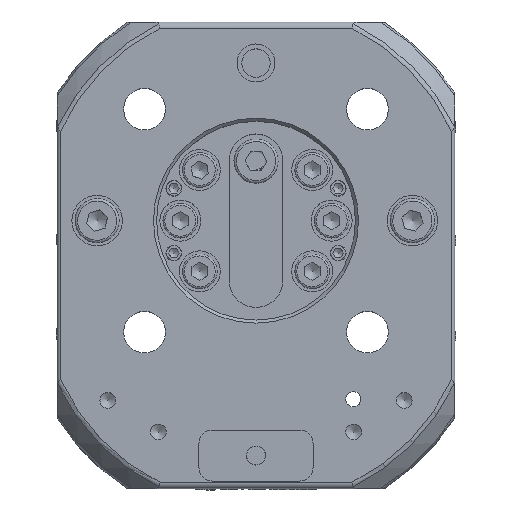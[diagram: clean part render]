
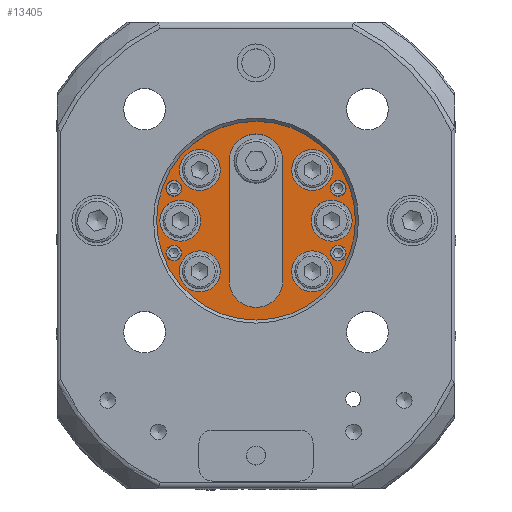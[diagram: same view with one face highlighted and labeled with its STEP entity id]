
A CAD part, top view. The second image highlights one B-rep face of the part: STEP entity #13405.
In plain terms, the highlighted planar face has unit normal (0, 0, 1).
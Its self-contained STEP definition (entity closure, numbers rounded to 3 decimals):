
#826=LINE('',#18719,#1786);
#1051=LINE('',#20453,#2011);
#1786=VECTOR('',#15400,10.);
#2011=VECTOR('',#16271,10.);
#2877=FACE_BOUND('',#4065,.T.);
#2878=FACE_BOUND('',#4066,.T.);
#2879=FACE_BOUND('',#4067,.T.);
#2880=FACE_BOUND('',#4068,.T.);
#2881=FACE_BOUND('',#4069,.T.);
#2882=FACE_BOUND('',#4070,.T.);
#2883=FACE_BOUND('',#4071,.T.);
#2884=FACE_BOUND('',#4072,.T.);
#2885=FACE_BOUND('',#4073,.T.);
#2886=FACE_BOUND('',#4074,.T.);
#2887=FACE_BOUND('',#4075,.T.);
#3264=FACE_OUTER_BOUND('',#4064,.T.);
#4064=EDGE_LOOP('',(#9556));
#4065=EDGE_LOOP('',(#9557));
#4066=EDGE_LOOP('',(#9558));
#4067=EDGE_LOOP('',(#9559));
#4068=EDGE_LOOP('',(#9560));
#4069=EDGE_LOOP('',(#9561));
#4070=EDGE_LOOP('',(#9562));
#4071=EDGE_LOOP('',(#9563));
#4072=EDGE_LOOP('',(#9564));
#4073=EDGE_LOOP('',(#9565));
#4074=EDGE_LOOP('',(#9566));
#4075=EDGE_LOOP('',(#9567,#9568,#9569,#9570));
#4755=CIRCLE('',#14073,4.25);
#4875=CIRCLE('',#14383,15.76);
#4876=CIRCLE('',#14384,1.25);
#4877=CIRCLE('',#14385,1.25);
#4878=CIRCLE('',#14386,1.25);
#4879=CIRCLE('',#14387,1.25);
#4880=CIRCLE('',#14388,3.25);
#4881=CIRCLE('',#14389,3.25);
#4882=CIRCLE('',#14390,3.25);
#4883=CIRCLE('',#14391,3.25);
#4884=CIRCLE('',#14392,3.25);
#4885=CIRCLE('',#14393,3.25);
#4886=CIRCLE('',#14394,4.25);
#5297=VERTEX_POINT('',#18716);
#5298=VERTEX_POINT('',#18718);
#5299=VERTEX_POINT('',#18722);
#5570=VERTEX_POINT('',#20429);
#5571=VERTEX_POINT('',#20431);
#5572=VERTEX_POINT('',#20433);
#5573=VERTEX_POINT('',#20435);
#5574=VERTEX_POINT('',#20437);
#5575=VERTEX_POINT('',#20439);
#5576=VERTEX_POINT('',#20441);
#5577=VERTEX_POINT('',#20443);
#5578=VERTEX_POINT('',#20445);
#5579=VERTEX_POINT('',#20447);
#5580=VERTEX_POINT('',#20449);
#5581=VERTEX_POINT('',#20451);
#6593=EDGE_CURVE('',#5298,#5297,#826,.T.);
#6596=EDGE_CURVE('',#5297,#5299,#4755,.T.);
#7049=EDGE_CURVE('',#5570,#5570,#4875,.T.);
#7050=EDGE_CURVE('',#5571,#5571,#4876,.T.);
#7051=EDGE_CURVE('',#5572,#5572,#4877,.T.);
#7052=EDGE_CURVE('',#5573,#5573,#4878,.T.);
#7053=EDGE_CURVE('',#5574,#5574,#4879,.T.);
#7054=EDGE_CURVE('',#5575,#5575,#4880,.T.);
#7055=EDGE_CURVE('',#5576,#5576,#4881,.T.);
#7056=EDGE_CURVE('',#5577,#5577,#4882,.T.);
#7057=EDGE_CURVE('',#5578,#5578,#4883,.T.);
#7058=EDGE_CURVE('',#5579,#5579,#4884,.T.);
#7059=EDGE_CURVE('',#5580,#5580,#4885,.T.);
#7060=EDGE_CURVE('',#5581,#5298,#4886,.T.);
#7061=EDGE_CURVE('',#5299,#5581,#1051,.T.);
#9556=ORIENTED_EDGE('',*,*,#7049,.F.);
#9557=ORIENTED_EDGE('',*,*,#7050,.T.);
#9558=ORIENTED_EDGE('',*,*,#7051,.T.);
#9559=ORIENTED_EDGE('',*,*,#7052,.T.);
#9560=ORIENTED_EDGE('',*,*,#7053,.T.);
#9561=ORIENTED_EDGE('',*,*,#7054,.T.);
#9562=ORIENTED_EDGE('',*,*,#7055,.T.);
#9563=ORIENTED_EDGE('',*,*,#7056,.T.);
#9564=ORIENTED_EDGE('',*,*,#7057,.T.);
#9565=ORIENTED_EDGE('',*,*,#7058,.T.);
#9566=ORIENTED_EDGE('',*,*,#7059,.T.);
#9567=ORIENTED_EDGE('',*,*,#7060,.T.);
#9568=ORIENTED_EDGE('',*,*,#6593,.T.);
#9569=ORIENTED_EDGE('',*,*,#6596,.T.);
#9570=ORIENTED_EDGE('',*,*,#7061,.T.);
#12197=PLANE('',#14382);
#13405=ADVANCED_FACE('',(#3264,#2877,#2878,#2879,#2880,#2881,#2882,#2883,
#2884,#2885,#2886,#2887),#12197,.T.);
#14073=AXIS2_PLACEMENT_3D('',#18724,#15405,#15406);
#14382=AXIS2_PLACEMENT_3D('',#20428,#16245,#16246);
#14383=AXIS2_PLACEMENT_3D('',#20430,#16247,#16248);
#14384=AXIS2_PLACEMENT_3D('',#20432,#16249,#16250);
#14385=AXIS2_PLACEMENT_3D('',#20434,#16251,#16252);
#14386=AXIS2_PLACEMENT_3D('',#20436,#16253,#16254);
#14387=AXIS2_PLACEMENT_3D('',#20438,#16255,#16256);
#14388=AXIS2_PLACEMENT_3D('',#20440,#16257,#16258);
#14389=AXIS2_PLACEMENT_3D('',#20442,#16259,#16260);
#14390=AXIS2_PLACEMENT_3D('',#20444,#16261,#16262);
#14391=AXIS2_PLACEMENT_3D('',#20446,#16263,#16264);
#14392=AXIS2_PLACEMENT_3D('',#20448,#16265,#16266);
#14393=AXIS2_PLACEMENT_3D('',#20450,#16267,#16268);
#14394=AXIS2_PLACEMENT_3D('',#20452,#16269,#16270);
#15400=DIRECTION('',(0.,1.,0.));
#15405=DIRECTION('center_axis',(0.,0.,-1.));
#15406=DIRECTION('ref_axis',(-1.,0.,0.));
#16245=DIRECTION('center_axis',(0.,0.,1.));
#16246=DIRECTION('ref_axis',(1.,0.,0.));
#16247=DIRECTION('center_axis',(0.,0.,-1.));
#16248=DIRECTION('ref_axis',(-1.,0.,0.));
#16249=DIRECTION('center_axis',(0.,0.,-1.));
#16250=DIRECTION('ref_axis',(1.,0.,0.));
#16251=DIRECTION('center_axis',(0.,0.,-1.));
#16252=DIRECTION('ref_axis',(1.,0.,0.));
#16253=DIRECTION('center_axis',(0.,0.,-1.));
#16254=DIRECTION('ref_axis',(1.,0.,0.));
#16255=DIRECTION('center_axis',(0.,0.,-1.));
#16256=DIRECTION('ref_axis',(1.,0.,0.));
#16257=DIRECTION('center_axis',(0.,0.,-1.));
#16258=DIRECTION('ref_axis',(-1.,0.,0.));
#16259=DIRECTION('center_axis',(0.,0.,-1.));
#16260=DIRECTION('ref_axis',(-1.,0.,0.));
#16261=DIRECTION('center_axis',(0.,0.,-1.));
#16262=DIRECTION('ref_axis',(-1.,0.,0.));
#16263=DIRECTION('center_axis',(0.,0.,-1.));
#16264=DIRECTION('ref_axis',(1.,0.,0.));
#16265=DIRECTION('center_axis',(0.,0.,-1.));
#16266=DIRECTION('ref_axis',(1.,0.,0.));
#16267=DIRECTION('center_axis',(0.,0.,-1.));
#16268=DIRECTION('ref_axis',(1.,0.,0.));
#16269=DIRECTION('center_axis',(0.,0.,-1.));
#16270=DIRECTION('ref_axis',(1.,0.,0.));
#16271=DIRECTION('',(0.,-1.,0.));
#18716=CARTESIAN_POINT('',(-4.25,9.5,10.));
#18718=CARTESIAN_POINT('',(-4.25,-9.5,10.));
#18719=CARTESIAN_POINT('',(-4.25,4.75,10.));
#18722=CARTESIAN_POINT('',(4.25,9.5,10.));
#18724=CARTESIAN_POINT('Origin',(0.,9.5,10.));
#20428=CARTESIAN_POINT('Origin',(0.,0.,10.));
#20429=CARTESIAN_POINT('',(15.76,0.,10.));
#20430=CARTESIAN_POINT('Origin',(0.,0.,10.));
#20431=CARTESIAN_POINT('',(11.776,5.131,10.));
#20432=CARTESIAN_POINT('Origin',(13.026,5.131,10.));
#20433=CARTESIAN_POINT('',(11.776,-5.131,10.));
#20434=CARTESIAN_POINT('Origin',(13.026,-5.131,10.));
#20435=CARTESIAN_POINT('',(-14.276,-5.131,10.));
#20436=CARTESIAN_POINT('Origin',(-13.026,-5.131,10.));
#20437=CARTESIAN_POINT('',(-14.276,5.131,10.));
#20438=CARTESIAN_POINT('Origin',(-13.026,5.131,10.));
#20439=CARTESIAN_POINT('',(-8.75,0.,10.));
#20440=CARTESIAN_POINT('Origin',(-12.,0.,10.));
#20441=CARTESIAN_POINT('',(-5.668,-8.03,10.));
#20442=CARTESIAN_POINT('Origin',(-8.918,-8.03,10.));
#20443=CARTESIAN_POINT('',(-5.668,8.03,10.));
#20444=CARTESIAN_POINT('Origin',(-8.918,8.03,10.));
#20445=CARTESIAN_POINT('',(8.75,0.,10.));
#20446=CARTESIAN_POINT('Origin',(12.,0.,10.));
#20447=CARTESIAN_POINT('',(5.668,8.03,10.));
#20448=CARTESIAN_POINT('Origin',(8.918,8.03,10.));
#20449=CARTESIAN_POINT('',(5.668,-8.03,10.));
#20450=CARTESIAN_POINT('Origin',(8.918,-8.03,10.));
#20451=CARTESIAN_POINT('',(4.25,-9.5,10.));
#20452=CARTESIAN_POINT('Origin',(0.,-9.5,10.));
#20453=CARTESIAN_POINT('',(4.25,-4.75,10.));
